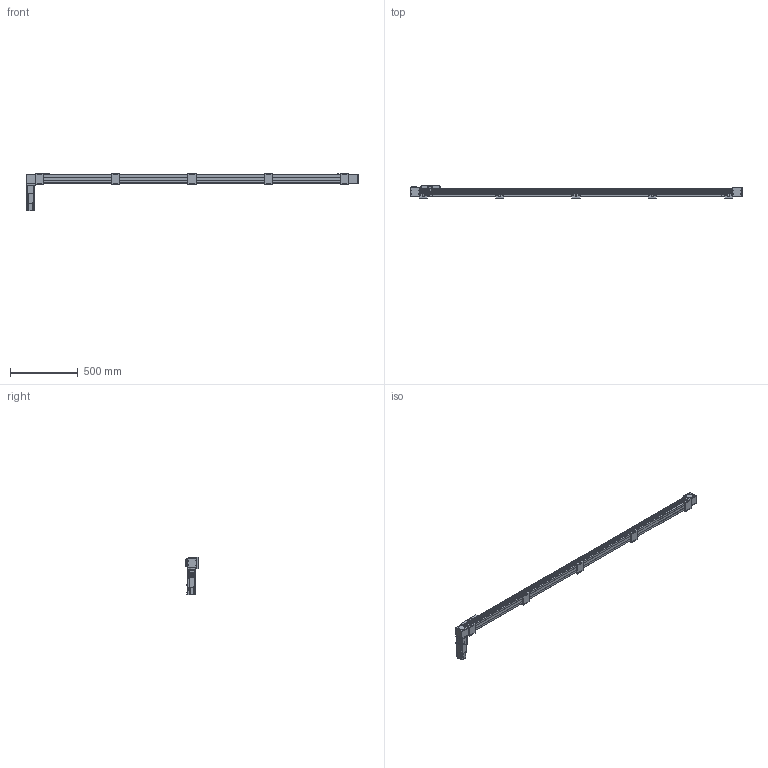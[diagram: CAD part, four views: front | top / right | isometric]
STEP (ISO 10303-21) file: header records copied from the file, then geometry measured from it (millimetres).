
FILE_DESCRIPTION(/* description */ ('STEP AP203'),/* implementation_level */ '2;1');
FILE_NAME(/* name */ 'SK60-P13-S2150-BR-T40-C1-N(0)',/* time_stamp */ '2023-04-06T04:00:44+02:00',/* author */ ('License CC BY-ND 4.0'),/* organization */ ('CADENAS'),/* preprocessor_version */ 'ST-DEVELOPER v19.3',/* originating_system */ 'PARTsolutions',/* authorisation */ ' ');
FILE_SCHEMA (('CONFIG_CONTROL_DESIGN'));
Length unit declared in the file: millimetre
Products named in the file (11): SK60-P13-S2150-BR-T40-C1-N(0); PSC140-sensor; SK60-S450_seat; SK60-S450-BL-C1_slider; SK60_body3; SK60_body6; SK60-BL_body2; T40-p1; SK60_body5; SK60_body4; SK60-S2150-BR-C1_body
Assembly tree (20 placements, depth 2):
  SK60-P13-S2150-BR-T40-C1-N(0)
    PSC140-sensor  x3
    SK60-S450_seat  x5
    SK60-S450-BL-C1_slider
    SK60_body3  x3
    SK60_body6  x2
    SK60-BL_body2  x2
    T40-p1
    SK60_body5
    SK60_body4
    SK60-S2150-BR-C1_body
Bounding box: 2450 x 90 x 279.1 mm (x, y, z)
Volume: 8945321.3 mm3; surface area: 1111131.9 mm2
Topology: 20 solids, 24 shells, 966 faces, 2403 edges, 1586 vertices
Faces by surface type: plane 616, cylinder 314, cone 34, torus 2
Full cylindrical faces by diameter (mm): 2.8 x3, 3.3 x4, 4.2 x8, 4.5 x26, 4.6 x3, 4.917 x28, 5 x2, 5.478 x4, 5.5 x31, 6.5 x10, 8 x4, 8.5 x4, 9.988 x4, 10 x20, 13.556 x1, 14 x1, 14.586 x1, 19.692 x1, 38.432 x2, 43 x1, 44 x3, 47 x2, 50 x2
Entity records: 19395 total; most frequent: DIRECTION 3298, CARTESIAN_POINT 3292, ORIENTED_EDGE 3050, EDGE_CURVE 1525, AXIS2_PLACEMENT_3D 1103, LINE 1092, VECTOR 1092, VERTEX_POINT 1077
